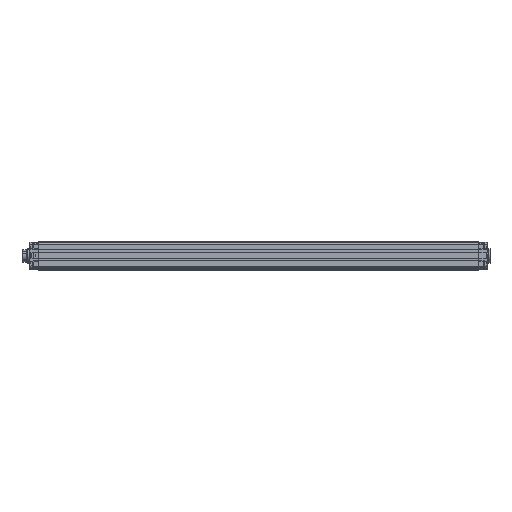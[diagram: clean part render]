
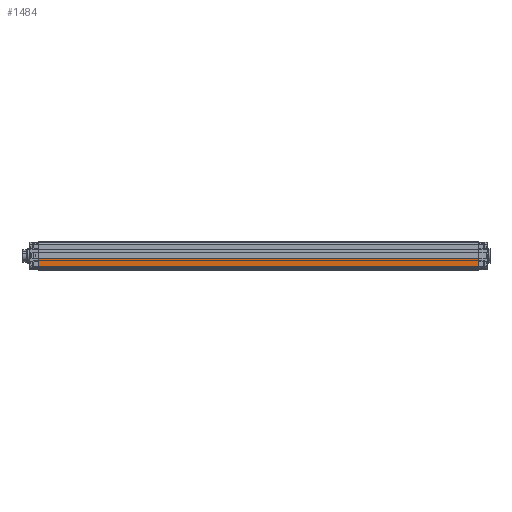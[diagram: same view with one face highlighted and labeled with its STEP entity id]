
A CAD part, top view. The second image highlights one B-rep face of the part: STEP entity #1484.
In plain terms, the highlighted planar face has unit normal (0, 0, 1).
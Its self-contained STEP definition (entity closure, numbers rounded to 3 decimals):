
#1484=ADVANCED_FACE('',(#2024),#11281,.T.);
#2024=FACE_OUTER_BOUND('',#2543,.T.);
#2543=EDGE_LOOP('',(#5810,#5811,#5812,#5813));
#3116=LINE('',#15603,#4289);
#3214=LINE('',#15819,#4387);
#3300=LINE('',#15999,#4473);
#3301=LINE('',#16000,#4474);
#4289=VECTOR('',#12581,1.);
#4387=VECTOR('',#12715,1.);
#4473=VECTOR('',#12901,1.);
#4474=VECTOR('',#12902,1.);
#5810=ORIENTED_EDGE('',*,*,#9577,.F.);
#5811=ORIENTED_EDGE('',*,*,#9669,.T.);
#5812=ORIENTED_EDGE('',*,*,#9468,.T.);
#5813=ORIENTED_EDGE('',*,*,#9670,.F.);
#8475=VERTEX_POINT('',#15602);
#8476=VERTEX_POINT('',#15604);
#8575=VERTEX_POINT('',#15818);
#8576=VERTEX_POINT('',#15820);
#9468=EDGE_CURVE('',#8476,#8475,#3116,.T.);
#9577=EDGE_CURVE('',#8575,#8576,#3214,.T.);
#9669=EDGE_CURVE('',#8575,#8476,#3300,.T.);
#9670=EDGE_CURVE('',#8576,#8475,#3301,.T.);
#11281=PLANE('',#11723);
#11723=AXIS2_PLACEMENT_3D('',#16001,#12903,#12904);
#12581=DIRECTION('',(0.,-1.,0.));
#12715=DIRECTION('',(0.,-1.,0.));
#12901=DIRECTION('',(-1.,0.,0.));
#12902=DIRECTION('',(-1.,0.,0.));
#12903=DIRECTION('',(0.,0.,1.));
#12904=DIRECTION('',(0.,-1.,0.));
#15602=CARTESIAN_POINT('',(0.,-12.65,15.65));
#15603=CARTESIAN_POINT('',(0.,-3.25,15.65));
#15604=CARTESIAN_POINT('',(0.,-3.25,15.65));
#15818=CARTESIAN_POINT('',(505.,-3.25,15.65));
#15819=CARTESIAN_POINT('',(505.,-3.25,15.65));
#15820=CARTESIAN_POINT('',(505.,-12.65,15.65));
#15999=CARTESIAN_POINT('',(1020.,-3.25,15.65));
#16000=CARTESIAN_POINT('',(1020.,-12.65,15.65));
#16001=CARTESIAN_POINT('',(0.,15.15,15.65));
